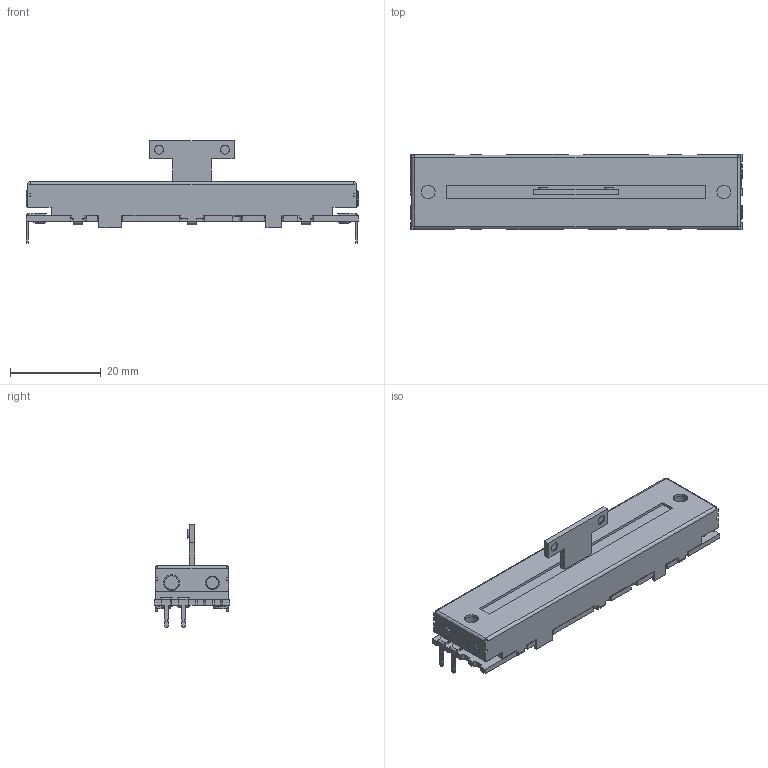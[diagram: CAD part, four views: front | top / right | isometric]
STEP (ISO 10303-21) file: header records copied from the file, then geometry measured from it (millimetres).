
FILE_DESCRIPTION(('FreeCAD Model'),'2;1');
FILE_NAME('Open CASCADE Shape Model','2025-07-06T19:13:20',(''),(''), 'Open CASCADE STEP processor 7.8','FreeCAD','Unknown');
FILE_SCHEMA(('AUTOMOTIVE_DESIGN { 1 0 10303 214 1 1 1 1 }'));
Length unit declared in the file: millimetre
Products named in the file (1): LSVA-450X
Bounding box: 73 x 16.5 x 22.6 mm (x, y, z)
Volume: 9862.2 mm3; surface area: 5018 mm2
Topology: 1 solids, 4 shells, 431 faces, 1170 edges, 761 vertices
Faces by surface type: plane 300, cylinder 121, cone 7, torus 3
Full cylindrical faces by diameter (mm): 0.5 x3, 1.5 x3, 1.7 x8, 2 x4, 3 x4, 3.5 x2, 4 x2
Entity records: 16604 total; most frequent: CARTESIAN_POINT 2366, ORIENTED_EDGE 2340, DIRECTION 2307, EDGE_CURVE 1170, LINE 891, VECTOR 891, VERTEX_POINT 761, AXIS2_PLACEMENT_3D 708
